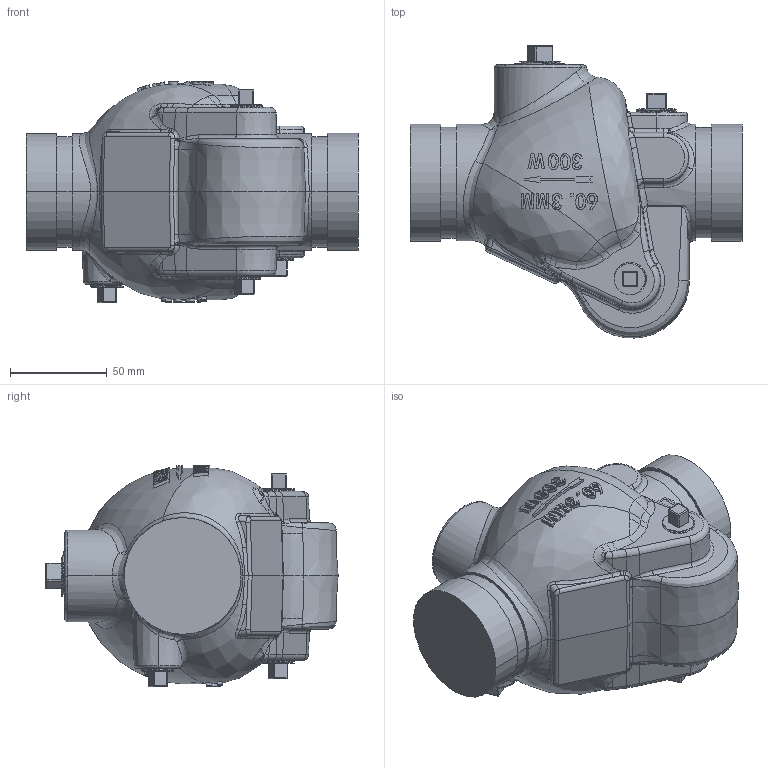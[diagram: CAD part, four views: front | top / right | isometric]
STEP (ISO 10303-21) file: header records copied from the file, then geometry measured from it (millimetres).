
FILE_DESCRIPTION (( 'STEP AP203' ), '1' );
FILE_NAME ('H84X 60 93L.STEP', '2022-06-08T10:08:56', ( 'MicroSoft' ), ( 'MicroSoft' ), 'SwSTEP 2.0', 'SolidWorks 2018', '' );
FILE_SCHEMA (( 'CONFIG_CONTROL_DESIGN' ));
Length unit declared in the file: millimetre
Products named in the file (4): H84X-D60-STEP; A291S 10; H84X 60 93L; A291S 15
Assembly tree (7 placements, depth 2):
  H84X 60 93L
    H84X-D60-STEP
    A291S 15  x2
    A291S 10  x4
Bounding box: 171.45 x 150.88 x 114.35 mm (x, y, z)
Volume: 1100544.9 mm3; surface area: 76957.1 mm2
Topology: 7 solids, 9 shells, 668 faces, 1644 edges, 994 vertices
Faces by surface type: bspline 222, cylinder 189, plane 169, torus 41, sphere 33, cone 14
Entity records: 41411 total; most frequent: CARTESIAN_POINT 30650, ORIENTED_EDGE 2588, DIRECTION 1355, EDGE_CURVE 1294, VERTEX_POINT 794, B_SPLINE_CURVE_WITH_KNOTS 700, EDGE_LOOP 554, FACE_OUTER_BOUND 532
